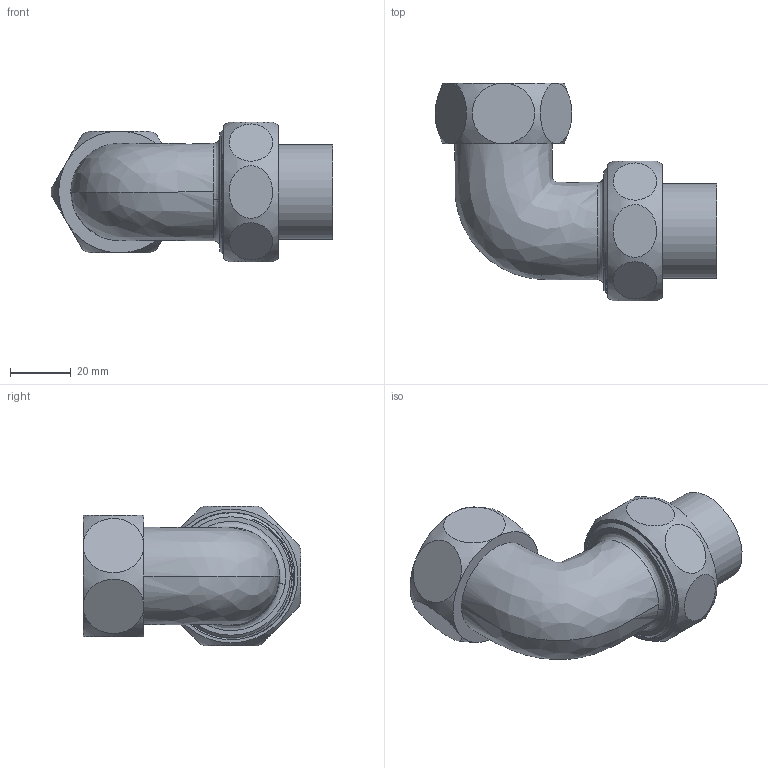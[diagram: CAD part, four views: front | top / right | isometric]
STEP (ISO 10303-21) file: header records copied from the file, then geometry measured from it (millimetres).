
FILE_DESCRIPTION((''),'2;1');
FILE_NAME('C:\Users\gomulka\Desktop\Lohse\14096281\14096281.stp','2014-08-28T08:50:19',('gomulka'),(''),'Autodesk Inventor 2009','Autodesk Inventor 2009','');
FILE_SCHEMA(('AUTOMOTIVE_DESIGN { 1 0 10303 214 1 1 1 1 }'));
Length unit declared in the file: millimetre
Products named in the file (4): 14096281; 1E4096G1114; 14381_28-114(1); 14374_114_338(1)
Assembly tree (3 placements, depth 2):
  14096281
    1E4096G1114
    14381_28-114(1)
    14374_114_338(1)
Bounding box: 92.76 x 71.69 x 46 mm (x, y, z)
Volume: 51589 mm3; surface area: 33972.8 mm2
Topology: 3 solids, 3 shells, 61 faces, 177 edges, 136 vertices
Faces by surface type: plane 27, bspline 17, cylinder 10, cone 6, torus 1
Full cylindrical faces by diameter (mm): 26 x1, 28.13 x1, 31.25 x1, 33.2 x1, 33.8 x1, 35.4 x1, 38.4 x1, 38.952 x1
Entity records: 7644 total; most frequent: CARTESIAN_POINT 6252, ORIENTED_EDGE 316, DIRECTION 184, EDGE_CURVE 158, VERTEX_POINT 134, EDGE_LOOP 96, AXIS2_PLACEMENT_3D 92, FACE_OUTER_BOUND 60
